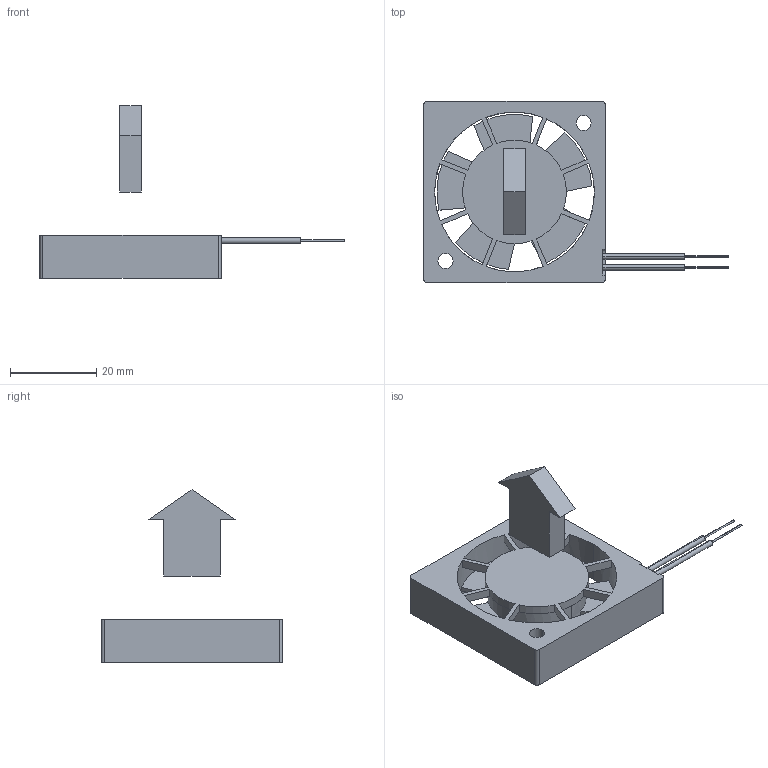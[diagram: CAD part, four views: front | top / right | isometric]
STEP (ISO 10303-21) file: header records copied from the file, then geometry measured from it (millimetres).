
FILE_DESCRIPTION( ( '' ), '1' );
FILE_NAME( 'c:/cad_url_generator/oriental/selction_from_product_tree/fan/propeller_fan/mds_serie/42_10asmtab/MDS410-12L.STEP', '2012-06-15T02:28:05', ( '' ), ( '' ), ' ', ' ', ' ' );
FILE_SCHEMA( ( 'CONFIG_CONTROL_DESIGN' ) );
Length unit declared in the file: millimetre
Products named in the file (2): 1; 2
Bounding box: 70.5 x 42 x 40 mm (x, y, z)
Volume: 12615.9 mm3; surface area: 8306 mm2
Topology: 2 solids, 2 shells, 108 faces, 297 edges, 198 vertices
Faces by surface type: plane 65, cylinder 43
Entity records: 3605 total; most frequent: DIRECTION 633, CARTESIAN_POINT 605, ORIENTED_EDGE 594, EDGE_CURVE 297, AXIS2_PLACEMENT_3D 226, VERTEX_POINT 198, LINE 181, VECTOR 181
